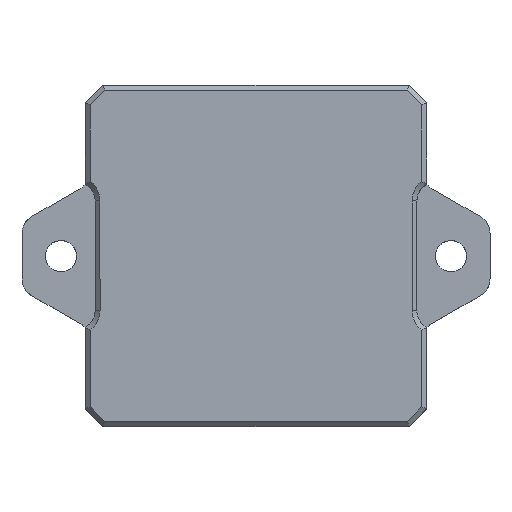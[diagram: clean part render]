
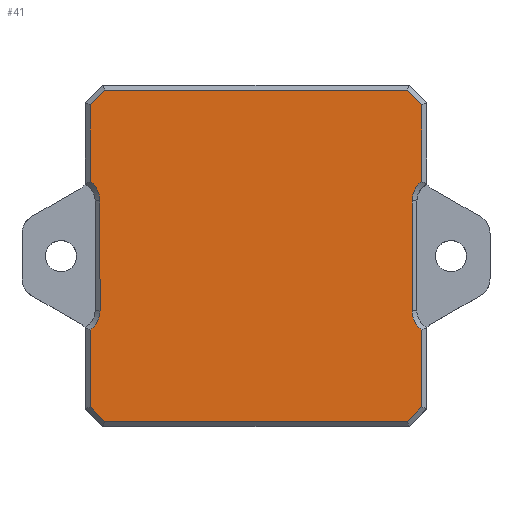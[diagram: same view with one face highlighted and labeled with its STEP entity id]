
A CAD part, top view. The second image highlights one B-rep face of the part: STEP entity #41.
In plain terms, the highlighted planar face has unit normal (0, 0, 1).
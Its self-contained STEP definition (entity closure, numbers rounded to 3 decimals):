
#41=ADVANCED_FACE('',(#206),#3078,.T.);
#206=FACE_OUTER_BOUND('',#371,.T.);
#371=EDGE_LOOP('',(#562,#563,#564,#565,#566,#567,#568,#569,#570,#571,#572,
#573,#574,#575,#576,#577));
#562=ORIENTED_EDGE('',*,*,#1562,.F.);
#563=ORIENTED_EDGE('',*,*,#1563,.T.);
#564=ORIENTED_EDGE('',*,*,#1549,.T.);
#565=ORIENTED_EDGE('',*,*,#1550,.T.);
#566=ORIENTED_EDGE('',*,*,#1551,.F.);
#567=ORIENTED_EDGE('',*,*,#1552,.T.);
#568=ORIENTED_EDGE('',*,*,#1553,.T.);
#569=ORIENTED_EDGE('',*,*,#1554,.T.);
#570=ORIENTED_EDGE('',*,*,#1555,.F.);
#571=ORIENTED_EDGE('',*,*,#1556,.T.);
#572=ORIENTED_EDGE('',*,*,#1557,.T.);
#573=ORIENTED_EDGE('',*,*,#1577,.T.);
#574=ORIENTED_EDGE('',*,*,#1558,.F.);
#575=ORIENTED_EDGE('',*,*,#1559,.T.);
#576=ORIENTED_EDGE('',*,*,#1560,.T.);
#577=ORIENTED_EDGE('',*,*,#1561,.T.);
#1549=EDGE_CURVE('',#2648,#2647,#2214,.T.);
#1550=EDGE_CURVE('',#2647,#2649,#2098,.T.);
#1551=EDGE_CURVE('',#2650,#2649,#2215,.T.);
#1552=EDGE_CURVE('',#2650,#2651,#2099,.T.);
#1553=EDGE_CURVE('',#2651,#2652,#2216,.T.);
#1554=EDGE_CURVE('',#2652,#2653,#2217,.T.);
#1555=EDGE_CURVE('',#2654,#2653,#2218,.T.);
#1556=EDGE_CURVE('',#2654,#2655,#2219,.T.);
#1557=EDGE_CURVE('',#2655,#2656,#2220,.T.);
#1558=EDGE_CURVE('',#2658,#2657,#2221,.T.);
#1559=EDGE_CURVE('',#2658,#2659,#2100,.T.);
#1560=EDGE_CURVE('',#2659,#2660,#2222,.T.);
#1561=EDGE_CURVE('',#2660,#2661,#2223,.T.);
#1562=EDGE_CURVE('',#2662,#2661,#2224,.T.);
#1563=EDGE_CURVE('',#2662,#2648,#2225,.T.);
#1577=EDGE_CURVE('',#2656,#2657,#2103,.T.);
#2098=(
BOUNDED_CURVE()
B_SPLINE_CURVE(2,(#4860,#4861,#4862),.UNSPECIFIED.,.F.,.F.)
B_SPLINE_CURVE_WITH_KNOTS((3,3),(0.,2.318),.UNSPECIFIED.)
CURVE()
GEOMETRIC_REPRESENTATION_ITEM()
RATIONAL_B_SPLINE_CURVE((1.,0.894,1.))
REPRESENTATION_ITEM('')
);
#2099=(
BOUNDED_CURVE()
B_SPLINE_CURVE(2,(#4865,#4866,#4867),.UNSPECIFIED.,.F.,.F.)
B_SPLINE_CURVE_WITH_KNOTS((3,3),(0.,2.318),.UNSPECIFIED.)
CURVE()
GEOMETRIC_REPRESENTATION_ITEM()
RATIONAL_B_SPLINE_CURVE((1.,0.894,1.))
REPRESENTATION_ITEM('')
);
#2100=(
BOUNDED_CURVE()
B_SPLINE_CURVE(2,(#4880,#4881,#4882),.UNSPECIFIED.,.F.,.F.)
B_SPLINE_CURVE_WITH_KNOTS((3,3),(0.,2.318),.UNSPECIFIED.)
CURVE()
GEOMETRIC_REPRESENTATION_ITEM()
RATIONAL_B_SPLINE_CURVE((1.,0.894,1.))
REPRESENTATION_ITEM('')
);
#2103=(
BOUNDED_CURVE()
B_SPLINE_CURVE(2,(#4923,#4924,#4925),.UNSPECIFIED.,.F.,.F.)
B_SPLINE_CURVE_WITH_KNOTS((3,3),(0.,2.318),.UNSPECIFIED.)
CURVE()
GEOMETRIC_REPRESENTATION_ITEM()
RATIONAL_B_SPLINE_CURVE((1.,0.894,1.))
REPRESENTATION_ITEM('')
);
#2214=B_SPLINE_CURVE_WITH_KNOTS('',1,(#4858,#4859),.UNSPECIFIED.,.F.,.F.,
(2,2),(0.,7.869),.UNSPECIFIED.);
#2215=B_SPLINE_CURVE_WITH_KNOTS('',1,(#4863,#4864),.UNSPECIFIED.,.F.,.F.,
(2,2),(-11.241,0.),.UNSPECIFIED.);
#2216=B_SPLINE_CURVE_WITH_KNOTS('',1,(#4868,#4869),.UNSPECIFIED.,.F.,.F.,
(2,2),(0.,7.869),.UNSPECIFIED.);
#2217=B_SPLINE_CURVE_WITH_KNOTS('',1,(#4870,#4871),.UNSPECIFIED.,.F.,.F.,
(2,2),(0.,2.136),.UNSPECIFIED.);
#2218=B_SPLINE_CURVE_WITH_KNOTS('',1,(#4872,#4873),.UNSPECIFIED.,.F.,.F.,
(2,2),(-30.98,0.),.UNSPECIFIED.);
#2219=B_SPLINE_CURVE_WITH_KNOTS('',1,(#4874,#4875),.UNSPECIFIED.,.F.,.F.,
(2,2),(0.,2.136),.UNSPECIFIED.);
#2220=B_SPLINE_CURVE_WITH_KNOTS('',1,(#4876,#4877),.UNSPECIFIED.,.F.,.F.,
(2,2),(0.,7.869),.UNSPECIFIED.);
#2221=B_SPLINE_CURVE_WITH_KNOTS('',1,(#4878,#4879),.UNSPECIFIED.,.F.,.F.,
(2,2),(-11.241,0.),.UNSPECIFIED.);
#2222=B_SPLINE_CURVE_WITH_KNOTS('',1,(#4883,#4884),.UNSPECIFIED.,.F.,.F.,
(2,2),(0.,7.869),.UNSPECIFIED.);
#2223=B_SPLINE_CURVE_WITH_KNOTS('',1,(#4885,#4886),.UNSPECIFIED.,.F.,.F.,
(2,2),(0.,2.136),.UNSPECIFIED.);
#2224=B_SPLINE_CURVE_WITH_KNOTS('',1,(#4887,#4888),.UNSPECIFIED.,.F.,.F.,
(2,2),(-30.98,0.),.UNSPECIFIED.);
#2225=B_SPLINE_CURVE_WITH_KNOTS('',1,(#4889,#4890),.UNSPECIFIED.,.F.,.F.,
(2,2),(0.,2.136),.UNSPECIFIED.);
#2647=VERTEX_POINT('',#4478);
#2648=VERTEX_POINT('',#4479);
#2649=VERTEX_POINT('',#4480);
#2650=VERTEX_POINT('',#4481);
#2651=VERTEX_POINT('',#4482);
#2652=VERTEX_POINT('',#4483);
#2653=VERTEX_POINT('',#4484);
#2654=VERTEX_POINT('',#4485);
#2655=VERTEX_POINT('',#4486);
#2656=VERTEX_POINT('',#4487);
#2657=VERTEX_POINT('',#4488);
#2658=VERTEX_POINT('',#4489);
#2659=VERTEX_POINT('',#4490);
#2660=VERTEX_POINT('',#4491);
#2661=VERTEX_POINT('',#4492);
#2662=VERTEX_POINT('',#4493);
#3078=PLANE('',#3212);
#3212=AXIS2_PLACEMENT_3D('',#3446,#3329,$);
#3329=DIRECTION('',(0.,0.,1.));
#3446=CARTESIAN_POINT('',(-21.136,-19.972,24.045));
#4478=CARTESIAN_POINT('',(-17.735,8.05,24.045));
#4479=CARTESIAN_POINT('',(-17.735,15.919,24.045));
#4480=CARTESIAN_POINT('',(-16.735,6.05,24.045));
#4481=CARTESIAN_POINT('',(-16.735,-5.191,24.045));
#4482=CARTESIAN_POINT('',(-17.735,-7.191,24.045));
#4483=CARTESIAN_POINT('',(-17.735,-15.061,24.045));
#4484=CARTESIAN_POINT('',(-16.225,-16.571,24.045));
#4485=CARTESIAN_POINT('',(14.755,-16.571,24.045));
#4486=CARTESIAN_POINT('',(16.265,-15.061,24.045));
#4487=CARTESIAN_POINT('',(16.265,-7.191,24.045));
#4488=CARTESIAN_POINT('',(15.265,-5.191,24.045));
#4489=CARTESIAN_POINT('',(15.265,6.05,24.045));
#4490=CARTESIAN_POINT('',(16.265,8.05,24.045));
#4491=CARTESIAN_POINT('',(16.265,15.919,24.045));
#4492=CARTESIAN_POINT('',(14.755,17.429,24.045));
#4493=CARTESIAN_POINT('',(-16.225,17.429,24.045));
#4858=CARTESIAN_POINT('',(-17.735,15.919,24.045));
#4859=CARTESIAN_POINT('',(-17.735,8.05,24.045));
#4860=CARTESIAN_POINT('',(-17.735,8.05,24.045));
#4861=CARTESIAN_POINT('',(-16.735,7.3,24.045));
#4862=CARTESIAN_POINT('',(-16.735,6.05,24.045));
#4863=CARTESIAN_POINT('',(-16.735,-5.191,24.045));
#4864=CARTESIAN_POINT('',(-16.735,6.05,24.045));
#4865=CARTESIAN_POINT('',(-16.735,-5.191,24.045));
#4866=CARTESIAN_POINT('',(-16.735,-6.441,24.045));
#4867=CARTESIAN_POINT('',(-17.735,-7.191,24.045));
#4868=CARTESIAN_POINT('',(-17.735,-7.191,24.045));
#4869=CARTESIAN_POINT('',(-17.735,-15.061,24.045));
#4870=CARTESIAN_POINT('',(-17.735,-15.061,24.045));
#4871=CARTESIAN_POINT('',(-16.225,-16.571,24.045));
#4872=CARTESIAN_POINT('',(14.755,-16.571,24.045));
#4873=CARTESIAN_POINT('',(-16.225,-16.571,24.045));
#4874=CARTESIAN_POINT('',(14.755,-16.571,24.045));
#4875=CARTESIAN_POINT('',(16.265,-15.061,24.045));
#4876=CARTESIAN_POINT('',(16.265,-15.061,24.045));
#4877=CARTESIAN_POINT('',(16.265,-7.191,24.045));
#4878=CARTESIAN_POINT('',(15.265,6.05,24.045));
#4879=CARTESIAN_POINT('',(15.265,-5.191,24.045));
#4880=CARTESIAN_POINT('',(15.265,6.05,24.045));
#4881=CARTESIAN_POINT('',(15.265,7.3,24.045));
#4882=CARTESIAN_POINT('',(16.265,8.05,24.045));
#4883=CARTESIAN_POINT('',(16.265,8.05,24.045));
#4884=CARTESIAN_POINT('',(16.265,15.919,24.045));
#4885=CARTESIAN_POINT('',(16.265,15.919,24.045));
#4886=CARTESIAN_POINT('',(14.755,17.429,24.045));
#4887=CARTESIAN_POINT('',(-16.225,17.429,24.045));
#4888=CARTESIAN_POINT('',(14.755,17.429,24.045));
#4889=CARTESIAN_POINT('',(-16.225,17.429,24.045));
#4890=CARTESIAN_POINT('',(-17.735,15.919,24.045));
#4923=CARTESIAN_POINT('',(16.265,-7.191,24.045));
#4924=CARTESIAN_POINT('',(15.265,-6.441,24.045));
#4925=CARTESIAN_POINT('',(15.265,-5.191,24.045));
